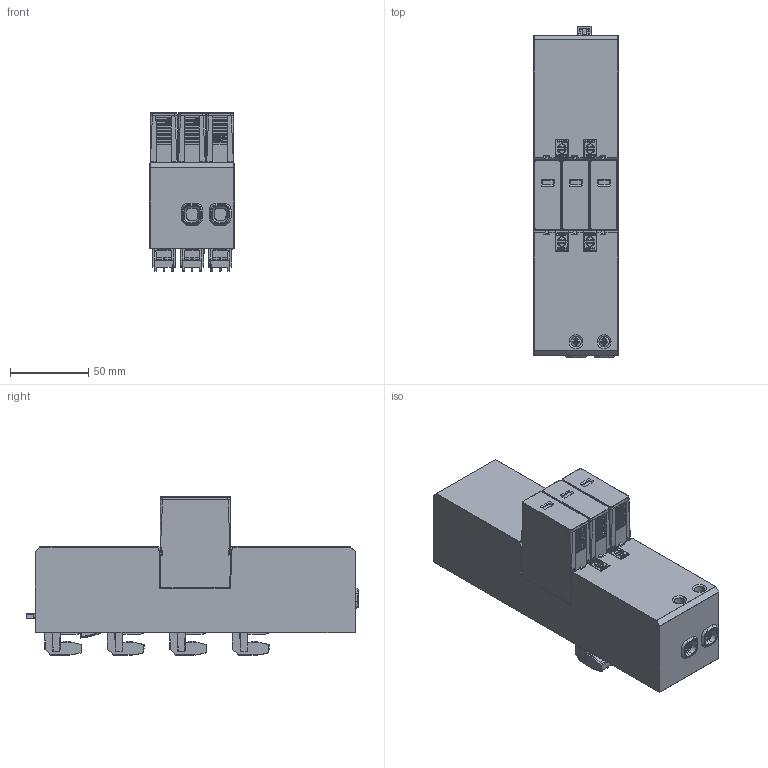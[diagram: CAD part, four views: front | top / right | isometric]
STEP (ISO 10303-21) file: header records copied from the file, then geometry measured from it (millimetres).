
FILE_DESCRIPTION(('STEP AP214'),'1');
FILE_NAME('FLP-ZP-xxx-VBH_3_oem.stp','2020-02-11T15:08:36',('martin.cadek'),('TransMagic, Inc.'),'TMR12sp2','TransMagic R12',' ');
FILE_SCHEMA(('AUTOMOTIVE_DESIGN'));
Length unit declared in the file: inch
Products named in the file (17): ASSEM1
Assembly tree (31 placements, depth 2):
  (unnamed)
    ASSEM1
    (unnamed)  x2
    (unnamed)
    (unnamed)
    (unnamed)  x3
    (unnamed)  x3
    (unnamed)  x4
    (unnamed)
    (unnamed)
    (unnamed)  x2
    (unnamed)
    (unnamed)  x2
    (unnamed)
    (unnamed)  x2
    (unnamed)  x2
    (unnamed)  x4
Bounding box: 53.8 x 212.43 x 101.46 mm (x, y, z)
Volume: 150200.6 mm3; surface area: 246812.3 mm2
Topology: 31 solids, 31 shells, 8383 faces, 22169 edges, 13661 vertices
Faces by surface type: plane 4819, cylinder 1976, bspline 506, cone 428, sphere 409, torus 243, extrusion 2
Entity records: 302880 total; most frequent: CARTESIAN_POINT 44737, ORIENTED_EDGE 32340, DIRECTION 30649, STYLED_ITEM 17586, PRESENTATION_STYLE_ASSIGNMENT 17586, COLOUR_RGB 17586, EDGE_CURVE 16170, VECTOR 12127
